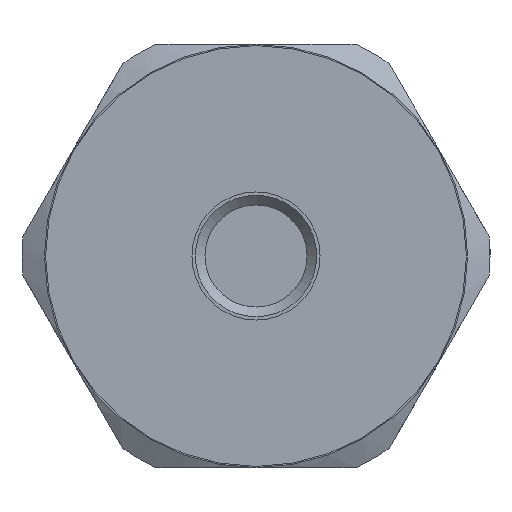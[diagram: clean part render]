
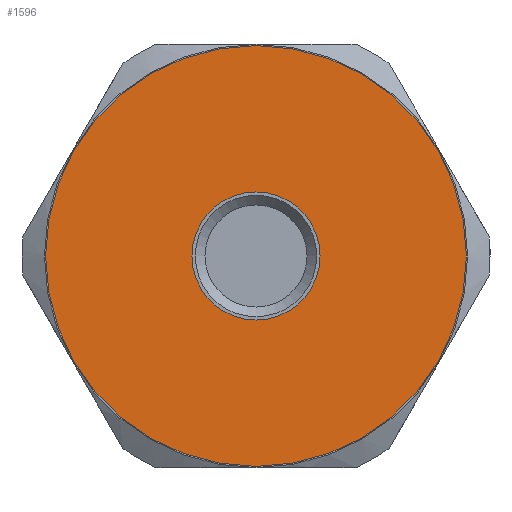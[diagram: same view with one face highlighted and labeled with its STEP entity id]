
A CAD part, front view. The second image highlights one B-rep face of the part: STEP entity #1596.
In plain terms, the highlighted planar face has unit normal (0, -1, 0).
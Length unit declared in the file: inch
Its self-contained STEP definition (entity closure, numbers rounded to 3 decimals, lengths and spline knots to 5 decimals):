
#106=FACE_BOUND('',#394,.T.);
#131=PLANE('',#1806);
#292=FACE_OUTER_BOUND('',#393,.T.);
#393=EDGE_LOOP('',(#1475,#1476));
#394=EDGE_LOOP('',(#1477,#1478));
#611=CIRCLE('',#1735,0.435);
#612=CIRCLE('',#1736,0.435);
#619=CIRCLE('',#1747,0.1325);
#620=CIRCLE('',#1748,0.1325);
#763=VERTEX_POINT('',#2683);
#764=VERTEX_POINT('',#2684);
#771=VERTEX_POINT('',#2706);
#772=VERTEX_POINT('',#2707);
#957=EDGE_CURVE('',#763,#764,#611,.T.);
#958=EDGE_CURVE('',#764,#763,#612,.T.);
#968=EDGE_CURVE('',#771,#772,#619,.T.);
#969=EDGE_CURVE('',#772,#771,#620,.T.);
#1475=ORIENTED_EDGE('',*,*,#957,.T.);
#1476=ORIENTED_EDGE('',*,*,#958,.T.);
#1477=ORIENTED_EDGE('',*,*,#968,.T.);
#1478=ORIENTED_EDGE('',*,*,#969,.T.);
#1596=ADVANCED_FACE('',(#292,#106),#131,.T.);
#1735=AXIS2_PLACEMENT_3D('',#2685,#2098,#2099);
#1736=AXIS2_PLACEMENT_3D('',#2686,#2100,#2101);
#1747=AXIS2_PLACEMENT_3D('',#2708,#2125,#2126);
#1748=AXIS2_PLACEMENT_3D('',#2709,#2127,#2128);
#1806=AXIS2_PLACEMENT_3D('',#2894,#2258,#2259);
#2098=DIRECTION('center_axis',(0.,-1.,0.));
#2099=DIRECTION('ref_axis',(1.,0.,0.));
#2100=DIRECTION('center_axis',(0.,-1.,0.));
#2101=DIRECTION('ref_axis',(1.,0.,0.));
#2125=DIRECTION('center_axis',(0.,1.,0.));
#2126=DIRECTION('ref_axis',(1.,0.,0.));
#2127=DIRECTION('center_axis',(0.,1.,0.));
#2128=DIRECTION('ref_axis',(1.,0.,0.));
#2258=DIRECTION('center_axis',(0.,-1.,0.));
#2259=DIRECTION('ref_axis',(0.,0.,-1.));
#2683=CARTESIAN_POINT('',(0.435,-0.276,0.));
#2684=CARTESIAN_POINT('',(-0.435,-0.276,0.));
#2685=CARTESIAN_POINT('Origin',(0.,-0.276,0.));
#2686=CARTESIAN_POINT('Origin',(0.,-0.276,0.));
#2706=CARTESIAN_POINT('',(0.1325,-0.276,0.));
#2707=CARTESIAN_POINT('',(-0.1325,-0.276,0.));
#2708=CARTESIAN_POINT('Origin',(0.,-0.276,0.));
#2709=CARTESIAN_POINT('Origin',(0.,-0.276,0.));
#2894=CARTESIAN_POINT('Origin',(0.2175,-0.276,0.));
